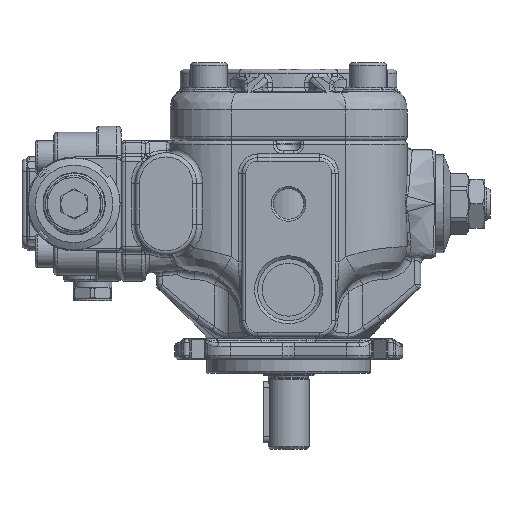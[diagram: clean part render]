
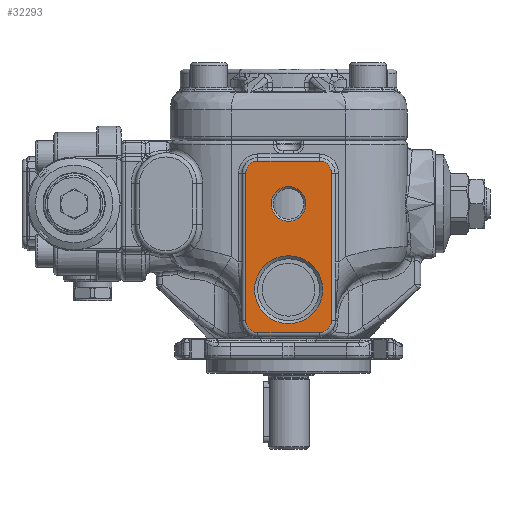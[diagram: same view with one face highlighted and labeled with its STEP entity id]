
A CAD part, left-side view. The second image highlights one B-rep face of the part: STEP entity #32293.
In plain terms, the highlighted planar face has unit normal (-1, 0, 0).
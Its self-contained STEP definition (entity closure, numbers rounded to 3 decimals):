
#501=FACE_BOUND('',#7157,.T.);
#502=FACE_BOUND('',#7158,.T.);
#2331=CIRCLE('',#35397,16.646);
#2336=CIRCLE('',#35404,6.);
#2337=CIRCLE('',#35405,6.);
#2338=CIRCLE('',#35406,6.);
#2339=CIRCLE('',#35407,6.);
#2340=CIRCLE('',#35408,8.475);
#5132=FACE_OUTER_BOUND('',#7156,.T.);
#7156=EDGE_LOOP('',(#24723,#24724,#24725,#24726,#24727,#24728,#24729,#24730));
#7157=EDGE_LOOP('',(#24731));
#7158=EDGE_LOOP('',(#24732));
#9808=LINE('',#58906,#11195);
#9809=LINE('',#58910,#11196);
#9810=LINE('',#58914,#11197);
#9811=LINE('',#58918,#11198);
#11195=VECTOR('',#42213,10.);
#11196=VECTOR('',#42216,10.);
#11197=VECTOR('',#42219,10.);
#11198=VECTOR('',#42222,10.);
#13404=VERTEX_POINT('',#58890);
#13409=VERTEX_POINT('',#58904);
#13410=VERTEX_POINT('',#58905);
#13411=VERTEX_POINT('',#58907);
#13412=VERTEX_POINT('',#58909);
#13413=VERTEX_POINT('',#58911);
#13414=VERTEX_POINT('',#58913);
#13415=VERTEX_POINT('',#58915);
#13416=VERTEX_POINT('',#58917);
#13417=VERTEX_POINT('',#58920);
#17314=EDGE_CURVE('',#13404,#13404,#2331,.T.);
#17321=EDGE_CURVE('',#13409,#13410,#9808,.T.);
#17322=EDGE_CURVE('',#13411,#13409,#2336,.T.);
#17323=EDGE_CURVE('',#13412,#13411,#9809,.T.);
#17324=EDGE_CURVE('',#13413,#13412,#2337,.T.);
#17325=EDGE_CURVE('',#13414,#13413,#9810,.T.);
#17326=EDGE_CURVE('',#13415,#13414,#2338,.T.);
#17327=EDGE_CURVE('',#13416,#13415,#9811,.T.);
#17328=EDGE_CURVE('',#13410,#13416,#2339,.T.);
#17329=EDGE_CURVE('',#13417,#13417,#2340,.T.);
#24723=ORIENTED_EDGE('',*,*,#17321,.F.);
#24724=ORIENTED_EDGE('',*,*,#17322,.F.);
#24725=ORIENTED_EDGE('',*,*,#17323,.F.);
#24726=ORIENTED_EDGE('',*,*,#17324,.F.);
#24727=ORIENTED_EDGE('',*,*,#17325,.F.);
#24728=ORIENTED_EDGE('',*,*,#17326,.F.);
#24729=ORIENTED_EDGE('',*,*,#17327,.F.);
#24730=ORIENTED_EDGE('',*,*,#17328,.F.);
#24731=ORIENTED_EDGE('',*,*,#17329,.F.);
#24732=ORIENTED_EDGE('',*,*,#17314,.F.);
#28968=PLANE('',#35403);
#32293=ADVANCED_FACE('',(#5132,#501,#502),#28968,.F.);
#35397=AXIS2_PLACEMENT_3D('',#58891,#42197,#42198);
#35403=AXIS2_PLACEMENT_3D('',#58903,#42211,#42212);
#35404=AXIS2_PLACEMENT_3D('',#58908,#42214,#42215);
#35405=AXIS2_PLACEMENT_3D('',#58912,#42217,#42218);
#35406=AXIS2_PLACEMENT_3D('',#58916,#42220,#42221);
#35407=AXIS2_PLACEMENT_3D('',#58919,#42223,#42224);
#35408=AXIS2_PLACEMENT_3D('',#58921,#42225,#42226);
#42197=DIRECTION('center_axis',(-1.,0.,0.));
#42198=DIRECTION('ref_axis',(0.,-1.,0.));
#42211=DIRECTION('center_axis',(1.,0.,0.));
#42212=DIRECTION('ref_axis',(0.,0.,-1.));
#42213=DIRECTION('',(0.,0.,1.));
#42214=DIRECTION('center_axis',(1.,0.,0.));
#42215=DIRECTION('ref_axis',(0.,0.707,-0.707));
#42216=DIRECTION('',(0.,1.,0.));
#42217=DIRECTION('center_axis',(1.,0.,0.));
#42218=DIRECTION('ref_axis',(0.,-0.707,-0.707));
#42219=DIRECTION('',(0.,0.,-1.));
#42220=DIRECTION('center_axis',(1.,0.,0.));
#42221=DIRECTION('ref_axis',(0.,-0.707,0.707));
#42222=DIRECTION('',(0.,-1.,0.));
#42223=DIRECTION('center_axis',(1.,0.,0.));
#42224=DIRECTION('ref_axis',(0.,0.707,0.707));
#42225=DIRECTION('center_axis',(-1.,0.,0.));
#42226=DIRECTION('ref_axis',(0.,-1.,0.));
#58890=CARTESIAN_POINT('',(-76.54,4.642,-22.748));
#58891=CARTESIAN_POINT('Origin',(-76.54,-12.004,-22.748));
#58903=CARTESIAN_POINT('Origin',(-76.54,-12.004,-1.748));
#58904=CARTESIAN_POINT('',(-76.54,8.996,-37.748));
#58905=CARTESIAN_POINT('',(-76.54,8.996,34.252));
#58906=CARTESIAN_POINT('',(-76.54,8.996,16.252));
#58907=CARTESIAN_POINT('',(-76.54,2.996,-43.748));
#58908=CARTESIAN_POINT('Origin',(-76.54,2.996,-37.748));
#58909=CARTESIAN_POINT('',(-76.54,-27.004,-43.748));
#58910=CARTESIAN_POINT('',(-76.54,-4.504,-43.748));
#58911=CARTESIAN_POINT('',(-76.54,-33.004,-37.748));
#58912=CARTESIAN_POINT('Origin',(-76.54,-27.004,-37.748));
#58913=CARTESIAN_POINT('',(-76.54,-33.004,34.252));
#58914=CARTESIAN_POINT('',(-76.54,-33.004,-19.748));
#58915=CARTESIAN_POINT('',(-76.54,-27.004,40.252));
#58916=CARTESIAN_POINT('Origin',(-76.54,-27.004,34.252));
#58917=CARTESIAN_POINT('',(-76.54,2.996,40.252));
#58918=CARTESIAN_POINT('',(-76.54,-19.504,40.252));
#58919=CARTESIAN_POINT('Origin',(-76.54,2.996,34.252));
#58920=CARTESIAN_POINT('',(-76.54,-3.529,19.252));
#58921=CARTESIAN_POINT('Origin',(-76.54,-12.004,19.252));
